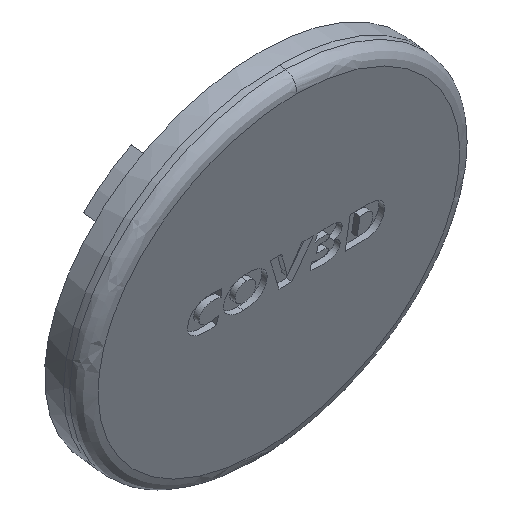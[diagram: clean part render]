
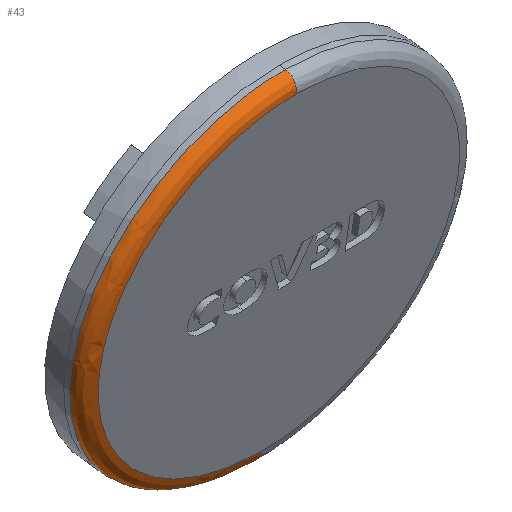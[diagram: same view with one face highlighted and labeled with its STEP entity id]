
A CAD part, isometric view. The second image highlights one B-rep face of the part: STEP entity #43.
In plain terms, the highlighted free-form (B-spline) face has degree [2, 2] with [3, 5] control points.
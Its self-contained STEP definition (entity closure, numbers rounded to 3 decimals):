
#43=ADVANCED_FACE('',(#110),#1043,.T.);
#110=FACE_OUTER_BOUND('',#186,.T.);
#186=EDGE_LOOP('',(#321,#322,#323,#324));
#321=ORIENTED_EDGE('',*,*,#577,.F.);
#322=ORIENTED_EDGE('',*,*,#578,.T.);
#323=ORIENTED_EDGE('',*,*,#579,.T.);
#324=ORIENTED_EDGE('',*,*,#713,.F.);
#577=EDGE_CURVE('',#888,#977,#727,.T.);
#578=EDGE_CURVE('',#888,#889,#728,.T.);
#579=EDGE_CURVE('',#889,#978,#729,.T.);
#713=EDGE_CURVE('',#977,#978,#746,.T.);
#727=(
BOUNDED_CURVE()
B_SPLINE_CURVE(2,(#2068,#2069,#2070,#2071,#2072),.UNSPECIFIED.,.F.,.F.)
B_SPLINE_CURVE_WITH_KNOTS((3,2,3),(0.,43.396,86.792),
 .UNSPECIFIED.)
CURVE()
GEOMETRIC_REPRESENTATION_ITEM()
RATIONAL_B_SPLINE_CURVE((1.,0.707,1.,0.707,1.))
REPRESENTATION_ITEM('')
);
#728=(
BOUNDED_CURVE()
B_SPLINE_CURVE(2,(#2073,#2074,#2075),.UNSPECIFIED.,.F.,.F.)
B_SPLINE_CURVE_WITH_KNOTS((3,3),(0.,3.727),.UNSPECIFIED.)
CURVE()
GEOMETRIC_REPRESENTATION_ITEM()
RATIONAL_B_SPLINE_CURVE((1.,0.707,1.))
REPRESENTATION_ITEM('')
);
#729=(
BOUNDED_CURVE()
B_SPLINE_CURVE(2,(#2076,#2077,#2078,#2079,#2080),.UNSPECIFIED.,.F.,.F.)
B_SPLINE_CURVE_WITH_KNOTS((3,2,3),(0.,43.396,86.792),
 .UNSPECIFIED.)
CURVE()
GEOMETRIC_REPRESENTATION_ITEM()
RATIONAL_B_SPLINE_CURVE((1.,0.707,1.,0.707,1.))
REPRESENTATION_ITEM('')
);
#746=(
BOUNDED_CURVE()
B_SPLINE_CURVE(2,(#2816,#2817,#2818),.UNSPECIFIED.,.F.,.F.)
B_SPLINE_CURVE_WITH_KNOTS((3,3),(0.,3.727),.UNSPECIFIED.)
CURVE()
GEOMETRIC_REPRESENTATION_ITEM()
RATIONAL_B_SPLINE_CURVE((1.,0.707,1.))
REPRESENTATION_ITEM('')
);
#888=VERTEX_POINT('',#1920);
#889=VERTEX_POINT('',#1921);
#977=VERTEX_POINT('',#2009);
#978=VERTEX_POINT('',#2010);
#1043=(
BOUNDED_SURFACE()
B_SPLINE_SURFACE(2,2,((#1190,#1191,#1192,#1193,#1194),(#1195,#1196,#1197,
#1198,#1199),(#1200,#1201,#1202,#1203,#1204)),.UNSPECIFIED.,.F.,.F.,.F.)
B_SPLINE_SURFACE_WITH_KNOTS((3,3),(3,2,3),(0.,3.727),(0.,43.396,
86.792),.UNSPECIFIED.)
GEOMETRIC_REPRESENTATION_ITEM()
RATIONAL_B_SPLINE_SURFACE(((1.,0.707,1.,0.707,1.),
(0.707,0.5,0.707,0.5,
0.707),(1.,0.707,1.,0.707,1.)))
REPRESENTATION_ITEM('')
SURFACE()
);
#1190=CARTESIAN_POINT('',(-0.114,-103.736,-25.364));
#1191=CARTESIAN_POINT('',(-35.872,-103.693,-25.36));
#1192=CARTESIAN_POINT('',(-35.872,-107.201,7.179));
#1193=CARTESIAN_POINT('',(-35.872,-110.709,39.719));
#1194=CARTESIAN_POINT('',(-0.114,-110.752,39.714));
#1195=CARTESIAN_POINT('',(-0.116,-106.095,-25.619));
#1196=CARTESIAN_POINT('',(-35.875,-106.052,-25.614));
#1197=CARTESIAN_POINT('',(-35.875,-109.56,6.925));
#1198=CARTESIAN_POINT('',(-35.875,-113.068,39.464));
#1199=CARTESIAN_POINT('',(-0.116,-113.112,39.46));
#1200=CARTESIAN_POINT('',(-0.116,-106.373,-23.045));
#1201=CARTESIAN_POINT('',(-33.047,-106.333,-23.041));
#1202=CARTESIAN_POINT('',(-33.047,-109.564,6.925));
#1203=CARTESIAN_POINT('',(-33.047,-112.794,36.89));
#1204=CARTESIAN_POINT('',(-0.116,-112.834,36.886));
#1920=CARTESIAN_POINT('',(-0.114,-103.736,-25.364));
#1921=CARTESIAN_POINT('',(-0.116,-106.373,-23.045));
#2009=CARTESIAN_POINT('',(-0.114,-110.752,39.714));
#2010=CARTESIAN_POINT('',(-0.116,-112.834,36.886));
#2068=CARTESIAN_POINT('',(-0.114,-103.736,-25.364));
#2069=CARTESIAN_POINT('',(-35.872,-103.693,-25.36));
#2070=CARTESIAN_POINT('',(-35.872,-107.201,7.179));
#2071=CARTESIAN_POINT('',(-35.872,-110.709,39.719));
#2072=CARTESIAN_POINT('',(-0.114,-110.752,39.714));
#2073=CARTESIAN_POINT('',(-0.114,-103.736,-25.364));
#2074=CARTESIAN_POINT('',(-0.116,-106.095,-25.619));
#2075=CARTESIAN_POINT('',(-0.116,-106.373,-23.045));
#2076=CARTESIAN_POINT('',(-0.116,-106.373,-23.045));
#2077=CARTESIAN_POINT('',(-33.047,-106.333,-23.041));
#2078=CARTESIAN_POINT('',(-33.047,-109.564,6.925));
#2079=CARTESIAN_POINT('',(-33.047,-112.794,36.89));
#2080=CARTESIAN_POINT('',(-0.116,-112.834,36.886));
#2816=CARTESIAN_POINT('',(-0.114,-110.752,39.714));
#2817=CARTESIAN_POINT('',(-0.116,-113.112,39.46));
#2818=CARTESIAN_POINT('',(-0.116,-112.834,36.886));
